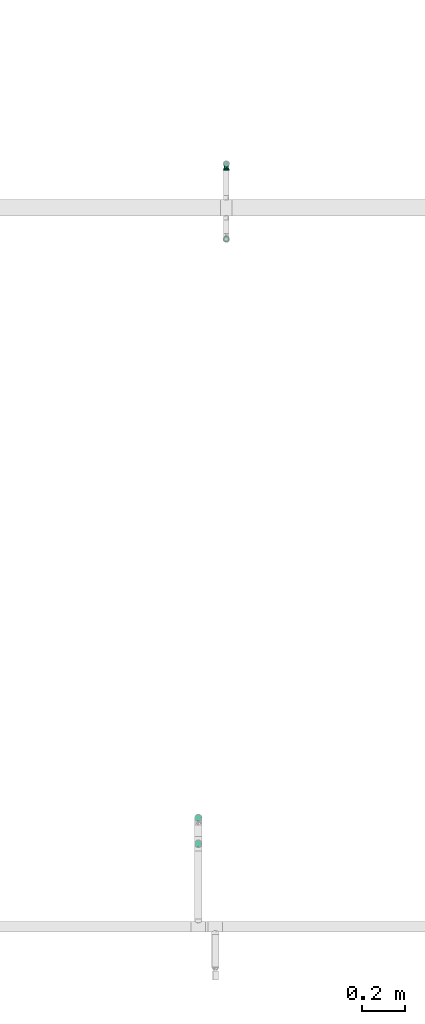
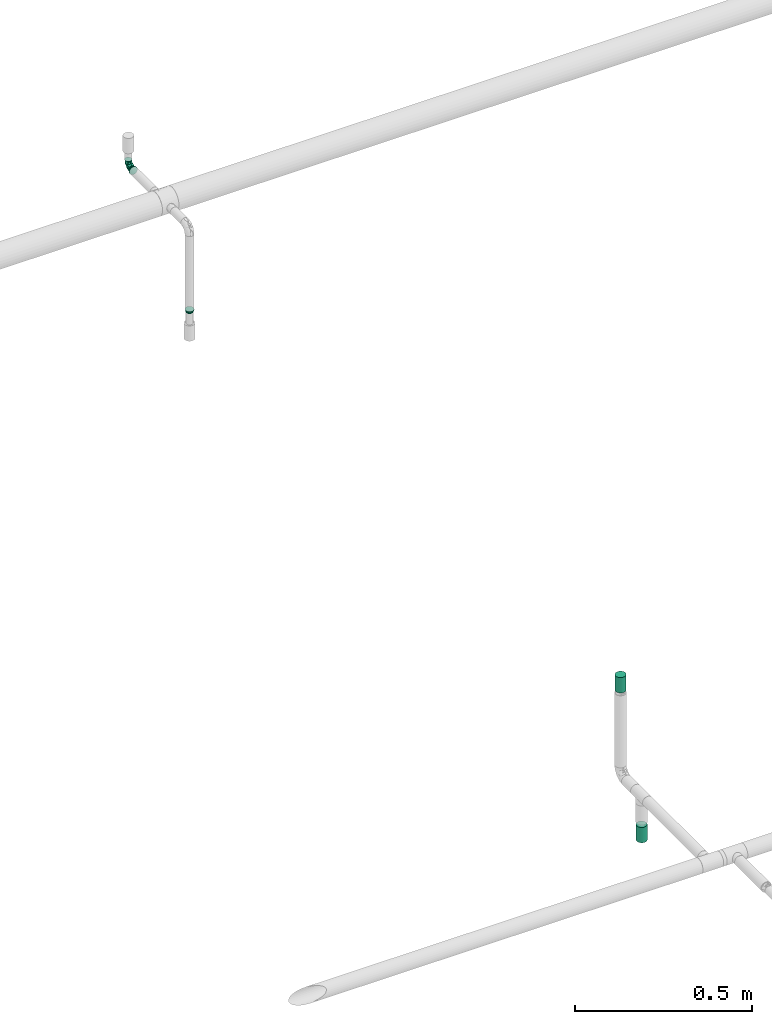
# One storey, part 35 of 51: 3 flow fittings, 2 flow terminals.
"""IFC2X3 building model written with IfcOpenShell, lengths in millimetres."""

import ifcopenshell
import ifcopenshell.guid

model = None  # the IFC model being written
_history = None  # IfcOwnerHistory: only IFC2X3 demands one
_inside = {}  # id of a spatial element -> (the spatial element, [elements in it])
_under = {}  # id of a project, library or spatial element -> (it, [spatial elements below it])
_declared = {}  # id of a project -> (the project, [libraries it declares])
_typed = {}  # id of a type object -> (the type object, [elements of that type])
_made_of = {}  # id of a material, layer set ... -> (it, [elements and type objects made of it])


def new_model(schema):
    """Start an empty IFC model of exactly this schema.

    Asked for "IFC4X3", IfcOpenShell would pick the latest addendum, in which some entities
    have other attributes; the version numbers below select the first issue.
    IFC2X3 requires an IfcOwnerHistory on every rooted entity: one is made here for all.
    """
    global model, _history
    if schema == "IFC4X3":
        model = ifcopenshell.file(schema_version=(4, 3, 0, 0))
    else:
        model = ifcopenshell.file(schema=schema)
    _inside.clear()
    _under.clear()
    _declared.clear()
    _typed.clear()
    _made_of.clear()
    _history = None
    if model.schema == "IFC2X3":
        org = make("IfcOrganization", Name="unknown")
        user = make(
            "IfcPersonAndOrganization",
            ThePerson=make("IfcPerson", FamilyName="unknown"),
            TheOrganization=org,
        )
        app = make(
            "IfcApplication",
            ApplicationDeveloper=org,
            Version="unknown",
            ApplicationFullName="unknown",
            ApplicationIdentifier="unknown",
        )
        _history = make(
            "IfcOwnerHistory",
            OwningUser=user,
            OwningApplication=app,
            ChangeAction="ADDED",
            CreationDate=0,
        )
    return model


def make(cls, **values):
    """One entity of the class cls with the attributes given. An attribute that is None is left unset."""
    return model.create_entity(
        cls, **{name: value for name, value in values.items() if value is not None}
    )


def entity(cls, *values):
    """Any entity or typed value of the class cls, its attributes in the order of the schema. None: left unset."""
    e = model.create_entity(cls)
    for i, value in enumerate(values):
        if value is not None:
            e[i] = value
    return e


def rooted(cls, **values):
    """An entity with a GlobalId (a new one), such as an element, a storey or a relation."""
    return make(cls, GlobalId=ifcopenshell.guid.new(), OwnerHistory=_history, **values)


def si_unit(unit_type, name, prefix=None):
    """IfcSIUnit, for example si_unit("LENGTHUNIT", "METRE", prefix="MILLI")."""
    return make("IfcSIUnit", UnitType=unit_type, Prefix=prefix, Name=name)


def converted_unit(unit_type, name, factor, base, dimensions=None, offset=None):
    """IfcConversionBasedUnit, such as the inch: factor (a typed value) times the base unit."""
    return make(
        "IfcConversionBasedUnit"
        if offset is None
        else "IfcConversionBasedUnitWithOffset",
        ConversionOffset=offset,
        Dimensions=None
        if dimensions is None
        else entity("IfcDimensionalExponents", *dimensions),
        UnitType=unit_type,
        Name=name,
        ConversionFactor=make(
            "IfcMeasureWithUnit", ValueComponent=factor, UnitComponent=base
        ),
    )


def derived_unit(unit_type, elements):
    """IfcDerivedUnit: a product of units, each with its exponent."""
    return make(
        "IfcDerivedUnit",
        Elements=[
            make("IfcDerivedUnitElement", Unit=unit, Exponent=power)
            for unit, power in elements
        ],
        UnitType=unit_type,
    )


def assignment(units):
    """IfcUnitAssignment: the units of a project."""
    return None if units is None else make("IfcUnitAssignment", Units=units)


def point(xyz):
    """IfcCartesianPoint."""
    return None if xyz is None else make("IfcCartesianPoint", Coordinates=xyz)


def direction(xyz):
    """IfcDirection."""
    return None if xyz is None else make("IfcDirection", DirectionRatios=xyz)


def frame(location, z_axis=None, x_axis=None):
    """IfcAxis2Placement3D, a coordinate frame: its origin and axes. An axis left out is left unset."""
    return make(
        "IfcAxis2Placement3D",
        Location=point(location),
        Axis=direction(z_axis),
        RefDirection=direction(x_axis),
    )


def origin_with_axes():
    """The frame at (0, 0, 0) with the z axis (0, 0, 1) and the x axis (1, 0, 0) written out."""
    return frame((0.0, 0.0, 0.0), z_axis=(0.0, 0.0, 1.0), x_axis=(1.0, 0.0, 0.0))


def place(relative_to, where):
    """IfcLocalPlacement: puts the frame where relative to a parent placement (None: the world)."""
    return make(
        "IfcLocalPlacement", PlacementRelTo=relative_to, RelativePlacement=where
    )


def context(
    kind, dimensions, precision=None, world=None, true_north=None, identifier=None
):
    """IfcGeometricRepresentationContext, for example the 3D "Model" context."""
    return make(
        "IfcGeometricRepresentationContext",
        ContextIdentifier=identifier,
        ContextType=kind,
        CoordinateSpaceDimension=dimensions,
        Precision=precision,
        WorldCoordinateSystem=world,
        TrueNorth=true_north,
    )


def subcontext(parent, identifier, kind, view, scale=None):
    """IfcGeometricRepresentationSubContext, for example "Body" below "Model"."""
    return make(
        "IfcGeometricRepresentationSubContext",
        ContextIdentifier=identifier,
        ContextType=kind,
        ParentContext=parent,
        TargetScale=scale,
        TargetView=view,
    )


def project(units=None, contexts=None):
    """IfcProject with its units and contexts."""
    return rooted(
        "IfcProject",
        Name="project",
        RepresentationContexts=contexts,
        UnitsInContext=assignment(units),
    )


def spatial(cls, under=None, at=None, **own):
    """A site, building, storey or space (cls), placed at a placement, below another one or the project."""
    s = rooted(cls, ObjectPlacement=at, **own)
    if under is not None:
        _under.setdefault(under.id(), (under, []))[1].append(s)
    return s


def faces_of(points, faces, orient=None, outer=None):
    """IfcFace entities. A face is a list of loops; a loop is a list of indices into points, from 0.

    orient and outer hold one flag for each loop. By default every Orientation is true, the
    first loop of a face is its IfcFaceOuterBound and the others are IfcFaceBound.
    """
    made = []
    for i, loops in enumerate(faces):
        bounds = []
        for j, loop in enumerate(loops):
            is_outer = j == 0 if outer is None else outer[i][j]
            bounds.append(
                make(
                    "IfcFaceOuterBound" if is_outer else "IfcFaceBound",
                    Bound=make("IfcPolyLoop", Polygon=[points[k] for k in loop]),
                    Orientation=True if orient is None else orient[i][j],
                )
            )
        made.append(make("IfcFace", Bounds=bounds))
    return made


def open_shell(faces, orient=None, outer=None):
    """The faces of one IfcOpenShell. surface_model builds it on its shared points."""
    return ("IfcOpenShell", faces, orient, outer)


def surface_model(cls, points, shells):
    """IfcFaceBasedSurfaceModel or IfcShellBasedSurfaceModel (cls): surfaces that need not close."""
    shared = [point(p) for p in points]
    made = [make(c, CfsFaces=faces_of(shared, fs, o, b)) for c, fs, o, b in shells]
    if cls == "IfcFaceBasedSurfaceModel":
        return make(cls, FbsmFaces=made)
    return make(cls, SbsmBoundary=made)


def shape(context_of_items, identifier, shape_type, items):
    """IfcShapeRepresentation: the items that make up one representation, for example the "Body"."""
    return make(
        "IfcShapeRepresentation",
        ContextOfItems=context_of_items,
        RepresentationIdentifier=identifier,
        RepresentationType=shape_type,
        Items=items,
    )


def source(mapping_origin, context_of_items, identifier, shape_type, items):
    """IfcRepresentationMap: a shape defined once, which mapped items show again and again."""
    return make(
        "IfcRepresentationMap",
        MappingOrigin=mapping_origin,
        MappedRepresentation=shape(context_of_items, identifier, shape_type, items),
    )


def transform(
    local_origin,
    x_axis=None,
    y_axis=None,
    z_axis=None,
    scale=None,
    scale2=None,
    scale3=None,
    uniform=True,
):
    """IfcCartesianTransformationOperator3D, or its non-uniform kind. x_axis, y_axis, z_axis: its Axis1, 2, 3."""
    if uniform:
        return make(
            "IfcCartesianTransformationOperator3D",
            Axis1=direction(x_axis),
            Axis2=direction(y_axis),
            LocalOrigin=point(local_origin),
            Scale=scale,
            Axis3=direction(z_axis),
        )
    return make(
        "IfcCartesianTransformationOperator3DnonUniform",
        Axis1=direction(x_axis),
        Axis2=direction(y_axis),
        LocalOrigin=point(local_origin),
        Scale=scale,
        Axis3=direction(z_axis),
        Scale2=scale2,
        Scale3=scale3,
    )


def mapped(mapping_source, mapping_target):
    """IfcMappedItem: shows the shape of a source again, moved by a transform."""
    return make(
        "IfcMappedItem", MappingSource=mapping_source, MappingTarget=mapping_target
    )


def made_of(thing, what):
    """Note that an element or type object is made of a material, layer set ...; save() writes the relation."""
    if what is not None:
        _made_of.setdefault(what.id(), (what, []))[1].append(thing)
    return thing


def type_object(cls, material=None, **own):
    """A type object (cls), such as IfcWallType, which elements share."""
    return made_of(rooted(cls, **own), material)


def element(
    cls,
    number,
    at=None,
    inside=None,
    cuts=None,
    type_object=None,
    material=None,
    context=None,
    identifier="Body",
    shape_type=None,
    held_by="IfcProductDefinitionShape",
    body=None,
    shapes=None,
    **own,
):
    """One element of the class cls, such as IfcWall. Its Tag is "e" and its number.

    at: its placement. inside: the storey or other place that contains it. cuts: it is an
    opening in that element (IfcRelVoidsElement). A single representation is given by context,
    identifier, shape_type and body (its items); several are given by shapes. held_by: the class
    of the entity that holds the representations. save() writes the other relations.
    """
    e = rooted(cls, Tag="e%d" % number, ObjectPlacement=at, **own)
    if body is not None:
        shapes = [shape(context, identifier, shape_type, body)]
    if shapes is not None:
        e.Representation = make(held_by, Representations=shapes)
    if inside is not None:
        _inside.setdefault(inside.id(), (inside, []))[1].append(e)
    if cuts is not None:
        rooted(
            "IfcRelVoidsElement", RelatingBuildingElement=cuts, RelatedOpeningElement=e
        )
    if type_object is not None:
        _typed.setdefault(type_object.id(), (type_object, []))[1].append(e)
    return made_of(e, material)


def aggregate(whole, parts):
    """IfcRelAggregates: a whole, such as a stair, and the parts it consists of."""
    return rooted("IfcRelAggregates", RelatingObject=whole, RelatedObjects=parts)


def save(model, path):
    """Write the relations noted so far, then the file.

    IfcRelAggregates (storeys below a building ...), IfcRelContainedInSpatialStructure (elements
    in a storey), IfcRelDefinesByType, IfcRelAssociatesMaterial and IfcRelDeclares: one each for
    every whole, place, type object, material and project.
    """
    for whole, parts in _under.values():
        aggregate(whole, parts)
    for where, things in _inside.values():
        rooted(
            "IfcRelContainedInSpatialStructure",
            RelatedElements=things,
            RelatingStructure=where,
        )
    for kind, things in _typed.values():
        rooted("IfcRelDefinesByType", RelatedObjects=things, RelatingType=kind)
    for what, things in _made_of.values():
        rooted("IfcRelAssociatesMaterial", RelatedObjects=things, RelatingMaterial=what)
    for by, libraries in _declared.values():
        rooted("IfcRelDeclares", RelatingContext=by, RelatedDefinitions=libraries)
    model.write(path)


model = new_model("IFC2X3")

# Units and contexts
model_context = context("Model", 3, precision=0.01, world=frame((0.0, 4.29681676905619e-09, 0.0)), true_north=direction((4.01073788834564e-13, 1.0)))
plan_context = context("Plan", 3, precision=0.01, world=frame((0.0, 4.29681676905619e-09, 0.0)), true_north=direction((4.01073788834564e-13, 1.0)))
body_context = subcontext(model_context, "Body", "Model", "MODEL_VIEW")
ifc_project = project(units=[converted_unit("PLANEANGLEUNIT", "DEGREE", entity("IfcPositiveLengthMeasure", 0.0174532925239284), si_unit("PLANEANGLEUNIT", "RADIAN"), dimensions=[0, 0, 0, 0, 0, 0, 0]), si_unit("AREAUNIT", "SQUARE_METRE"), si_unit("LENGTHUNIT", "METRE", prefix="MILLI"), si_unit("MASSUNIT", "GRAM", prefix="KILO"), si_unit("POWERUNIT", "WATT"), si_unit("PRESSUREUNIT", "PASCAL"), si_unit("FORCEUNIT", "NEWTON", prefix="KILO"), si_unit("ELECTRICVOLTAGEUNIT", "VOLT"), si_unit("ELECTRICCURRENTUNIT", "AMPERE"), si_unit("THERMODYNAMICTEMPERATUREUNIT", "DEGREE_CELSIUS"), si_unit("TIMEUNIT", "SECOND"), si_unit("VOLUMEUNIT", "CUBIC_METRE"), derived_unit("LINEARVELOCITYUNIT", [(si_unit("LENGTHUNIT", "METRE"), 1), (si_unit("TIMEUNIT", "SECOND"), -1)]), derived_unit("VOLUMETRICFLOWRATEUNIT", [(si_unit("VOLUMEUNIT", "CUBIC_METRE"), 1), (si_unit("TIMEUNIT", "SECOND"), -1)]), derived_unit("THERMALTRANSMITTANCEUNIT", [(si_unit("POWERUNIT", "WATT"), 1), (si_unit("THERMODYNAMICTEMPERATUREUNIT", "KELVIN"), -1), (si_unit("AREAUNIT", "SQUARE_METRE"), -1)]), derived_unit("SOUNDPRESSUREUNIT", [(si_unit("PRESSUREUNIT", "PASCAL"), 1)])], contexts=[model_context, plan_context])

# Site, building, storey
site_placement = place(None, frame((0.0, -4.29681676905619e-09, 0.0), z_axis=(0.0, 0.0, 1.0), x_axis=(1.0, 0.0, 0.0)))
site = spatial("IfcSite", under=ifc_project, at=site_placement, Name="ENGM", CompositionType="ELEMENT")
building_placement = place(site_placement, frame((0.0, 4.29681676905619e-09, 0.0), z_axis=(0.0, 0.0, 1.0), x_axis=(1.0, 0.0, 0.0)))
building = spatial("IfcBuilding", under=site, at=building_placement, Name="TH", CompositionType="ELEMENT")
storey_placement = place(building_placement, frame((0.0, 0.0, 210200.0), z_axis=(0.0, 0.0, 1.0), x_axis=(1.0, 0.0, 0.0)))
storey = spatial("IfcBuildingStorey", under=building, at=storey_placement, Name="Nivå F - 0,7 m", CompositionType="ELEMENT", Elevation=210200.0)

# Flow fittings
pipe_fitting_type_1 = type_object("IfcPipeFittingType", Name="magi_pipe_fe_elbow_short_001", PredefinedType="BEND")
shared_shape_1 = source(origin_with_axes(), body_context, "Body", "SurfaceModel", [
    surface_model("IfcShellBasedSurfaceModel", [(-21.4, 2.76936, -10.33541), (-21.4, 0.0, -10.7), (-21.4, 7.56604, -7.56604), (-21.4, 5.35, -9.26647), (-21.4, 10.33541, -2.76936), (-21.4, 9.26647, -5.35), (-21.4, -7.56604, 7.56604), (-21.4, -5.35, -9.26647), (-21.4, -5.35, 9.26647), (-21.4, -7.56604, -7.56604), (-21.4, -9.26647, -5.35), (-21.4, -2.76936, -10.33541), (-21.4, -10.33541, -2.76936), (-21.4, -10.7, 0.0), (-21.4, 10.7, 0.0), (-21.4, 10.33541, 2.76936), (-21.4, 9.26647, 5.35), (-21.4, 7.56604, 7.56604), (-21.4, 5.35, 9.26647), (-21.4, 2.76936, 10.33541), (-21.4, -10.33541, 2.76936), (-21.4, -9.26647, 5.35), (-21.4, -2.76936, 10.33541), (-21.4, 0.0, 10.7), (-7.56604, 21.4, -7.56604), (0.0, 21.4, -10.7), (-2.76936, 21.4, -10.33541), (-5.35, 21.4, -9.26647), (-9.26647, 21.4, -5.35), (-10.33541, 21.4, -2.76936), (10.7, 21.4, 0.0), (5.35, 21.4, -9.26647), (9.26647, 21.4, -5.35), (7.56604, 21.4, -7.56604), (2.76936, 21.4, -10.33541), (10.33541, 21.4, -2.76936), (-10.33541, 21.4, 2.76936), (5.35, 21.4, 9.26647), (-7.56604, 21.4, 7.56604), (-9.26647, 21.4, 5.35), (-5.35, 21.4, 9.26647), (-2.76936, 21.4, 10.33541), (9.26647, 21.4, 5.35), (10.33541, 21.4, 2.76936), (7.56604, 21.4, 7.56604), (0.0, 21.4, 10.7), (2.76936, 21.4, 10.33541), (-10.7, 21.4, 0.0), (-17.99408, -9.78739, 0.0), (-9.96908, -7.6371, 0.0), (-9.09404, -6.9243, 4.95785), (-14.48689, -7.04149, 7.24979), (5.63065, 8.24892, 6.28438), (2.06258, 3.09852, 6.68299), (3.46206, 2.41265, 0.0), (0.98571, 10.3211, 10.08431), (-14.58817, -8.87478, 0.0), (5.00363, 14.04705, 8.8538), (-11.43216, -3.30045, 9.33143), (7.6371, 9.96908, 0.0), (8.87478, 14.58817, 0.0), (-7.84024, 13.84213, 8.94205), (-3.62699, 16.02976, 10.31804), (-15.33449, 3.33478, 10.44017), (-7.99137, -0.64527, 9.75219), (-12.26698, 17.61698, 0.0), (-13.83396, 13.83396, 0.0), (-5.22925, -4.43288, 5.66596), (6.39942, 5.35, 0.0), (-15.15468, 10.16047, 6.44408), (-10.16467, 10.01422, 9.23503), (9.78739, 17.99408, 0.0), (-7.22951, 3.98894, 10.64848), (-2.16379, -1.00373, 6.95774), (0.52471, -0.52471, 0.0), (-2.94157, 6.97816, 10.50675), (-17.61698, 12.26698, 0.0), (-2.41265, -3.46206, 0.0), (-5.35, -6.39942, 0.0), (-8.83498, -0.07405, -10.11828), (-2.16379, -1.00373, -6.95774), (-5.8406, -4.06158, -6.57779), (-7.84024, 13.84213, -8.94205), (-15.33449, 3.33478, -10.44017), (-11.43216, -3.30045, -9.33143), (-15.15468, 10.16047, -6.44408), (-7.22951, 3.98894, -10.64848), (-10.16467, 10.01422, -9.23503), (2.06258, 3.09852, -6.68299), (-2.94157, 6.97816, -10.50675), (-14.48689, -7.04149, -7.24979), (5.00363, 14.04705, -8.8538), (-3.62699, 16.02976, -10.31804), (0.98571, 10.3211, -10.08431), (5.63065, 8.24892, -6.28438), (-9.09404, -6.9243, -4.95785)], [open_shell([[[0, 1, 2]], [[3, 0, 2]], [[4, 5, 2]], [[6, 1, 7]], [[1, 8, 2]], [[9, 10, 7]], [[1, 11, 7]], [[12, 13, 10]], [[7, 10, 13]], [[13, 6, 7]], [[4, 2, 14]], [[8, 15, 2]], [[16, 15, 17]], [[8, 18, 15]], [[17, 15, 18]], [[18, 8, 19]], [[20, 21, 13]], [[13, 21, 6]], [[22, 23, 8]], [[6, 8, 1]], [[8, 23, 19]], [[15, 14, 2]], [[24, 25, 26]], [[24, 26, 27]], [[24, 28, 29]], [[24, 29, 25]], [[25, 29, 30]], [[31, 32, 33]], [[31, 34, 25]], [[32, 30, 35]], [[30, 32, 31]], [[25, 30, 31]], [[29, 36, 30]], [[30, 36, 37]], [[38, 36, 39]], [[36, 40, 37]], [[40, 36, 38]], [[41, 37, 40]], [[30, 42, 43]], [[44, 42, 30]], [[37, 45, 46]], [[30, 37, 44]], [[41, 45, 37]], [[29, 47, 36]], [[21, 20, 48]], [[49, 50, 51]], [[52, 53, 54]], [[52, 55, 53]], [[51, 6, 56]], [[6, 21, 56]], [[41, 57, 45]], [[23, 51, 58]], [[51, 22, 8]], [[57, 59, 60]], [[61, 55, 62]], [[63, 58, 64]], [[65, 66, 61]], [[51, 23, 22]], [[23, 58, 19]], [[67, 58, 50]], [[54, 68, 52]], [[63, 17, 18]], [[20, 13, 48]], [[14, 15, 69]], [[16, 17, 63]], [[62, 40, 38]], [[19, 58, 63]], [[16, 69, 15]], [[63, 18, 19]], [[59, 52, 68]], [[60, 44, 37]], [[57, 46, 45]], [[69, 70, 66]], [[52, 59, 57]], [[39, 62, 38]], [[60, 42, 44]], [[37, 57, 60]], [[37, 46, 57]], [[6, 51, 8]], [[43, 71, 30]], [[51, 56, 49]], [[70, 69, 72]], [[73, 74, 53]], [[75, 72, 73]], [[16, 63, 69]], [[47, 65, 36]], [[42, 71, 43]], [[55, 57, 62]], [[52, 57, 55]], [[41, 40, 62]], [[60, 71, 42]], [[36, 61, 39]], [[48, 56, 21]], [[61, 62, 39]], [[62, 57, 41]], [[69, 63, 72]], [[53, 75, 73]], [[69, 66, 76]], [[67, 64, 58]], [[75, 53, 55]], [[67, 77, 73]], [[55, 61, 75]], [[70, 75, 61]], [[50, 49, 78]], [[67, 50, 78]], [[51, 50, 58]], [[77, 74, 73]], [[73, 72, 64]], [[67, 78, 77]], [[73, 64, 67]], [[63, 64, 72]], [[36, 65, 61]], [[75, 70, 72]], [[14, 69, 76]], [[66, 70, 61]], [[53, 74, 54]], [[79, 80, 81]], [[65, 29, 82]], [[3, 2, 83]], [[0, 84, 1]], [[4, 14, 85]], [[10, 48, 12]], [[83, 5, 85]], [[85, 5, 4]], [[86, 85, 87]], [[83, 86, 79]], [[83, 84, 0]], [[48, 13, 12]], [[80, 77, 81]], [[88, 80, 89]], [[10, 9, 56]], [[7, 11, 90]], [[91, 31, 60]], [[9, 7, 90]], [[90, 11, 1]], [[84, 90, 1]], [[9, 90, 56]], [[28, 92, 82]], [[5, 83, 2]], [[85, 14, 76]], [[80, 88, 74]], [[82, 66, 65]], [[93, 82, 92]], [[28, 82, 29]], [[28, 24, 92]], [[24, 27, 92]], [[71, 60, 32]], [[91, 92, 26]], [[56, 48, 10]], [[35, 30, 71]], [[27, 26, 92]], [[94, 88, 93]], [[25, 91, 26]], [[31, 91, 34]], [[83, 0, 3]], [[94, 93, 91]], [[33, 60, 31]], [[89, 93, 88]], [[34, 91, 25]], [[71, 32, 35]], [[92, 91, 93]], [[59, 91, 60]], [[86, 83, 85]], [[95, 78, 49]], [[33, 32, 60]], [[66, 87, 85]], [[94, 59, 68]], [[89, 80, 86]], [[49, 56, 90]], [[94, 54, 88]], [[59, 94, 91]], [[95, 90, 84]], [[87, 89, 86]], [[82, 93, 89]], [[81, 78, 95]], [[90, 95, 49]], [[81, 95, 84]], [[79, 81, 84]], [[82, 87, 66]], [[83, 79, 84]], [[80, 79, 86]], [[77, 80, 74]], [[77, 78, 81]], [[47, 29, 65]], [[76, 66, 85]], [[89, 87, 82]], [[54, 94, 68]], [[54, 74, 88]]])]),
])
flow_fitting_1_placement = place(storey_placement, frame((906000.0, 484531.46933, 2933.0), z_axis=(-1.0, 0.0, 0.0), x_axis=(0.0, 0.0, -1.0)))
element("IfcFlowFitting", 1, at=flow_fitting_1_placement, inside=storey, type_object=pipe_fitting_type_1, Name="magi_pipe_fe_elbow_short_001", context=body_context, shape_type="MappedRepresentation", body=[
    mapped(shared_shape_1, transform((0.0, 0.0, 0.0), scale=1.0)),
])
pipe_fitting_type_2 = type_object("IfcPipeFittingType", Name="magi_pipe_fe_reducer_centric_short_NOR", PredefinedType="TRANSITION")
shared_shape_2 = source(origin_with_axes(), body_context, "Body", "SurfaceModel", [
    surface_model("IfcShellBasedSurfaceModel", [(-2.0, -7.56604, -7.56604), (-2.0, -10.33541, -2.76936), (-2.0, -5.35, -9.26647), (0.0, -10.7, 0.0), (0.0, -5.35, 9.26647), (0.0, -5.35, -9.26647), (-2.0, -2.76936, 10.33541), (-2.0, 0.0, 10.7), (-2.0, -10.33541, 2.76936), (-2.0, -5.35, 9.26647), (-2.0, -7.56604, 7.56604), (-2.0, -9.26647, 5.35), (-2.0, 9.26647, 5.35), (-2.0, 5.35, 9.26647), (-2.0, 7.56604, 7.56604), (-2.0, 2.76936, 10.33541), (-2.0, 10.7, 0.0), (-2.0, 10.33541, -2.76936), (-2.0, 10.33541, 2.76936), (-2.0, -9.26647, -5.35), (-2.0, 5.35, -9.26647), (-2.0, -2.76936, -10.33541), (-2.0, 9.26647, -5.35), (-2.0, 7.56604, -7.56604), (-2.0, 2.76936, -10.33541), (-2.0, 0.0, -10.7), (-2.0, -10.7, 0.0), (0.0, -2.76936, -10.33541), (0.0, 0.0, -10.7), (0.0, -7.56604, -7.56604), (0.0, -10.33541, -2.76936), (0.0, 10.33541, -2.76936), (0.0, -9.26647, -5.35), (0.0, 9.26647, 5.35), (0.0, 2.76936, -10.33541), (0.0, 5.35, -9.26647), (0.0, 9.26647, -5.35), (0.0, 7.56604, -7.56604), (0.0, -10.33541, 2.76936), (0.0, -7.56604, 7.56604), (0.0, -9.26647, 5.35), (0.0, 0.0, 10.7), (0.0, -2.76936, 10.33541), (0.0, 10.7, 0.0), (0.0, 10.33541, 2.76936), (0.0, 5.35, 9.26647), (0.0, 2.76936, 10.33541), (0.0, 7.56604, 7.56604), (7.4, -6.7, -11.60474), (7.4, -3.46818, -12.94341), (7.4, -13.4, 0.0), (7.4, -9.47523, -9.47523), (7.4, -12.94341, -3.46818), (7.4, -11.60474, -6.7), (7.4, 12.94341, -3.46818), (7.4, 3.46818, -12.94341), (7.4, 6.7, -11.60474), (7.4, 0.0, -13.4), (7.4, 11.60474, -6.7), (7.4, 9.47523, -9.47523), (7.4, -12.94341, 3.46818), (7.4, -9.47523, 9.47523), (7.4, -11.60474, 6.7), (7.4, 0.0, 13.4), (7.4, -3.46818, 12.94341), (7.4, -6.7, 11.60474), (7.4, 6.7, 11.60474), (7.4, 11.60474, 6.7), (7.4, 9.47523, 9.47523), (7.4, 12.94341, 3.46818), (7.4, 13.4, 0.0), (7.4, 3.46818, 12.94341), (5.4, -6.7, 11.60474), (5.4, -3.46818, 12.94341), (5.4, 0.0, 13.4), (5.4, 3.46818, 12.94341), (5.4, -12.94341, 3.46818), (5.4, -11.60474, 6.7), (5.4, -9.47523, 9.47523), (5.4, 12.94341, 3.46818), (5.4, 6.7, 11.60474), (5.4, 9.47523, 9.47523), (5.4, 11.60474, 6.7), (5.4, 13.4, 0.0), (5.4, 6.7, -11.60474), (5.4, -9.47523, -9.47523), (5.4, -12.94341, -3.46818), (5.4, -11.60474, -6.7), (5.4, -6.7, -11.60474), (5.4, -3.46818, -12.94341), (5.4, 11.60474, -6.7), (5.4, 9.47523, -9.47523), (5.4, 12.94341, -3.46818), (5.4, 3.46818, -12.94341), (5.4, 0.0, -13.4), (5.4, -13.4, 0.0)], [open_shell([[[0, 1, 2]], [[3, 4, 5]], [[6, 7, 8]], [[9, 6, 10]], [[8, 11, 10]], [[6, 8, 10]], [[12, 8, 7]], [[13, 14, 15]], [[12, 15, 14]], [[16, 17, 18]], [[7, 15, 12]], [[17, 12, 18]], [[1, 8, 12]], [[1, 12, 17]], [[19, 1, 0]], [[17, 2, 1]], [[2, 20, 21]], [[22, 23, 17]], [[20, 17, 23]], [[24, 25, 20]], [[2, 17, 20]], [[20, 25, 21]], [[26, 8, 1]], [[27, 28, 5]], [[29, 5, 30]], [[30, 5, 31]], [[32, 29, 30]], [[30, 31, 33]], [[34, 35, 28]], [[35, 5, 28]], [[36, 31, 37]], [[35, 37, 31]], [[35, 31, 5]], [[38, 3, 30]], [[39, 40, 38]], [[33, 39, 30]], [[39, 41, 42]], [[4, 39, 42]], [[41, 39, 33]], [[43, 44, 31]], [[31, 44, 33]], [[45, 46, 47]], [[33, 47, 46]], [[33, 46, 41]], [[39, 38, 30]], [[16, 31, 17]], [[17, 36, 22]], [[20, 23, 35]], [[37, 23, 22]], [[24, 20, 34]], [[31, 36, 17]], [[16, 43, 31]], [[20, 35, 34]], [[35, 23, 37]], [[22, 36, 37]], [[24, 34, 28]], [[28, 25, 24]], [[25, 27, 21]], [[21, 5, 2]], [[19, 0, 32]], [[29, 0, 2]], [[1, 19, 30]], [[5, 29, 2]], [[21, 27, 5]], [[1, 30, 3]], [[30, 19, 32]], [[0, 29, 32]], [[1, 3, 26]], [[28, 27, 25]], [[26, 38, 8]], [[8, 40, 11]], [[9, 10, 4]], [[39, 10, 11]], [[6, 9, 42]], [[38, 40, 8]], [[26, 3, 38]], [[9, 4, 42]], [[4, 10, 39]], [[11, 40, 39]], [[6, 42, 41]], [[41, 7, 6]], [[7, 46, 15]], [[15, 45, 13]], [[12, 14, 33]], [[47, 14, 13]], [[18, 12, 44]], [[45, 47, 13]], [[15, 46, 45]], [[18, 44, 43]], [[44, 12, 33]], [[14, 47, 33]], [[18, 43, 16]], [[41, 46, 7]], [[4, 45, 43]], [[35, 5, 43]], [[4, 43, 5]], [[48, 49, 50]], [[51, 48, 50]], [[51, 50, 52]], [[53, 51, 52]], [[54, 50, 49]], [[55, 56, 57]], [[56, 49, 57]], [[58, 54, 59]], [[56, 59, 54]], [[56, 54, 49]], [[54, 60, 50]], [[61, 62, 60]], [[63, 61, 60]], [[63, 64, 65]], [[61, 63, 65]], [[66, 63, 60]], [[67, 68, 69]], [[69, 54, 70]], [[68, 66, 69]], [[66, 60, 69]], [[63, 66, 71]], [[60, 54, 69]], [[72, 73, 74]], [[72, 74, 75]], [[76, 77, 78]], [[75, 78, 72]], [[78, 79, 76]], [[80, 81, 75]], [[79, 75, 81]], [[82, 79, 81]], [[79, 78, 75]], [[83, 84, 79]], [[84, 76, 79]], [[85, 86, 76]], [[87, 86, 85]], [[88, 76, 84]], [[76, 88, 85]], [[89, 88, 84]], [[90, 91, 92]], [[91, 83, 92]], [[93, 94, 84]], [[91, 84, 83]], [[84, 94, 89]], [[95, 76, 86]], [[83, 54, 92]], [[92, 58, 90]], [[84, 91, 56]], [[59, 91, 90]], [[93, 84, 55]], [[54, 58, 92]], [[83, 70, 54]], [[84, 56, 55]], [[56, 91, 59]], [[90, 58, 59]], [[93, 55, 57]], [[57, 94, 93]], [[94, 49, 89]], [[89, 48, 88]], [[87, 85, 53]], [[51, 85, 88]], [[86, 87, 52]], [[48, 51, 88]], [[89, 49, 48]], [[86, 52, 50]], [[52, 87, 53]], [[85, 51, 53]], [[86, 50, 95]], [[57, 49, 94]], [[95, 60, 76]], [[76, 62, 77]], [[72, 78, 65]], [[61, 78, 77]], [[73, 72, 64]], [[60, 62, 76]], [[95, 50, 60]], [[72, 65, 64]], [[65, 78, 61]], [[77, 62, 61]], [[73, 64, 63]], [[63, 74, 73]], [[74, 71, 75]], [[75, 66, 80]], [[82, 81, 67]], [[68, 81, 80]], [[79, 82, 69]], [[66, 68, 80]], [[75, 71, 66]], [[79, 69, 70]], [[69, 82, 67]], [[81, 68, 67]], [[79, 70, 83]], [[63, 71, 74]], [[91, 81, 74]], [[74, 78, 95]], [[83, 81, 91]], [[85, 94, 91]], [[91, 95, 85]], [[74, 95, 91]], [[91, 35, 43]], [[43, 83, 91]], [[91, 94, 35]], [[85, 3, 5]], [[5, 94, 85]], [[3, 85, 95]], [[35, 94, 5]], [[78, 4, 3]], [[3, 95, 78]], [[78, 74, 4]], [[81, 43, 45]], [[45, 74, 81]], [[43, 81, 83]], [[4, 74, 45]]])]),
])
flow_fitting_2_placement = place(storey_placement, frame((906000.0, 484510.06933, 2933.0), z_axis=(0.0, 0.0, 1.0), x_axis=(0.0, -1.0, 0.0)))
element("IfcFlowFitting", 2, at=flow_fitting_2_placement, inside=storey, type_object=pipe_fitting_type_2, Name="magi_pipe_fe_reducer_centric_short_NOR", context=body_context, shape_type="MappedRepresentation", body=[
    mapped(shared_shape_2, transform((0.0, 0.0, 0.0), scale=1.0)),
])
shared_shape_3 = source(origin_with_axes(), body_context, "Body", "SurfaceModel", [
    surface_model("IfcShellBasedSurfaceModel", [(-2.0, 7.56604, 7.56604), (-2.0, 9.26647, 5.35), (-2.0, 10.33541, 2.76936), (-2.0, -2.76936, 10.33541), (-2.0, -7.56604, 7.56604), (-2.0, -5.35, 9.26647), (-2.0, -10.33541, 2.76936), (-2.0, -10.33541, -2.76936), (-2.0, -10.7, 0.0), (-2.0, 7.56604, -7.56604), (-2.0, 10.33541, -2.76936), (-2.0, 9.26647, -5.35), (-2.0, -7.56604, -7.56604), (-2.0, -9.26647, -5.35), (-2.0, -5.35, -9.26647), (-2.0, 0.0, -10.7), (-2.0, -2.76936, -10.33541), (-2.0, 2.76936, -10.33541), (-2.0, 10.7, 0.0), (0.0, 5.35, -9.26647), (0.0, 0.0, -10.7), (0.0, 2.76936, -10.33541), (0.0, 10.33541, -2.76936), (0.0, 7.56604, -7.56604), (0.0, 9.26647, -5.35), (0.0, -5.35, -9.26647), (0.0, -2.76936, -10.33541), (0.0, -7.56604, -7.56604), (0.0, -10.33541, -2.76936), (0.0, -9.26647, -5.35), (0.0, 10.33541, 2.76936), (0.0, 9.26647, 5.35), (0.0, 7.56604, 7.56604), (0.0, 2.76936, 10.33541), (0.0, 5.35, 9.26647), (0.0, -7.56604, 7.56604), (0.0, -2.76936, 10.33541), (0.0, -5.35, 9.26647), (0.0, -10.7, 0.0), (-2.0, 5.35, -9.26647), (0.0, 10.7, 0.0), (-2.0, 5.35, 9.26647), (-2.0, 2.76936, 10.33541), (0.0, 0.0, 10.7), (-2.0, 0.0, 10.7), (0.0, -9.26647, 5.35), (-2.0, -9.26647, 5.35), (0.0, -10.33541, 2.76936), (5.4, -12.94341, 3.46818), (5.4, -6.7, -11.60474), (5.4, -9.47523, -9.47523), (5.4, 9.47523, -9.47523), (5.4, 0.0, -13.4), (5.4, -9.47523, 9.47523), (5.4, 0.0, 13.4), (5.4, 9.47523, 9.47523), (7.4, 12.94341, -3.46818), (7.4, 3.46818, -12.94341), (7.4, 6.7, -11.60474), (7.4, 9.47523, -9.47523), (7.4, -6.7, -11.60474), (7.4, -12.94341, 3.46818), (7.4, 11.60474, -6.7), (7.4, 0.0, -13.4), (7.4, -3.46818, -12.94341), (7.4, -9.47523, -9.47523), (7.4, -12.94341, -3.46818), (7.4, -11.60474, -6.7), (7.4, 13.4, 0.0), (7.4, 12.94341, 3.46818), (7.4, 11.60474, 6.7), (7.4, 9.47523, 9.47523), (7.4, 0.0, 13.4), (7.4, 6.7, 11.60474), (7.4, 3.46818, 12.94341), (7.4, -6.7, 11.60474), (7.4, -9.47523, 9.47523), (7.4, -11.60474, 6.7), (7.4, -13.4, 0.0), (7.4, -3.46818, 12.94341), (5.4, 3.46818, 12.94341), (5.4, 6.7, 11.60474), (5.4, -3.46818, 12.94341), (5.4, 11.60474, 6.7), (5.4, 12.94341, 3.46818), (5.4, -6.7, 11.60474), (5.4, -11.60474, 6.7), (5.4, -12.94341, -3.46818), (5.4, -13.4, 0.0), (5.4, 12.94341, -3.46818), (5.4, 11.60474, -6.7), (5.4, 6.7, -11.60474), (5.4, 3.46818, -12.94341), (5.4, -11.60474, -6.7), (5.4, -3.46818, -12.94341), (5.4, 13.4, 0.0)], [open_shell([[[0, 1, 2]], [[3, 4, 5]], [[6, 7, 8]], [[9, 10, 11]], [[7, 12, 13]], [[12, 7, 14]], [[14, 15, 16]], [[17, 15, 14]], [[10, 2, 18]], [[19, 20, 21]], [[22, 19, 23]], [[22, 23, 24]], [[20, 25, 26]], [[20, 19, 25]], [[27, 28, 29]], [[28, 27, 25]], [[30, 31, 32]], [[33, 32, 34]], [[35, 36, 37]], [[7, 28, 8]], [[13, 29, 7]], [[25, 12, 14]], [[13, 12, 27]], [[26, 14, 16]], [[7, 29, 28]], [[28, 38, 8]], [[26, 25, 14]], [[27, 12, 25]], [[27, 29, 13]], [[20, 26, 16]], [[16, 15, 20]], [[17, 21, 15]], [[39, 19, 17]], [[24, 9, 11]], [[39, 9, 23]], [[22, 11, 10]], [[39, 23, 19]], [[19, 21, 17]], [[40, 22, 10]], [[24, 11, 22]], [[24, 23, 9]], [[18, 40, 10]], [[15, 21, 20]], [[2, 30, 18]], [[1, 31, 2]], [[34, 0, 41]], [[1, 0, 32]], [[33, 41, 42]], [[2, 31, 30]], [[30, 40, 18]], [[33, 34, 41]], [[32, 0, 34]], [[32, 31, 1]], [[43, 33, 42]], [[42, 44, 43]], [[3, 36, 44]], [[5, 37, 3]], [[45, 4, 46]], [[5, 4, 35]], [[47, 46, 6]], [[5, 35, 37]], [[37, 36, 3]], [[38, 47, 6]], [[45, 46, 47]], [[45, 35, 4]], [[8, 38, 6]], [[44, 36, 43]], [[38, 37, 25]], [[40, 37, 34]], [[40, 19, 25]], [[40, 25, 37]], [[39, 10, 9]], [[42, 7, 44]], [[41, 7, 42]], [[0, 2, 41]], [[6, 44, 7]], [[3, 44, 4]], [[4, 6, 46]], [[44, 6, 4]], [[41, 2, 7]], [[7, 2, 10]], [[10, 39, 7]], [[17, 7, 39]], [[14, 7, 17]], [[28, 19, 22]], [[43, 28, 22]], [[19, 28, 25]], [[22, 40, 30]], [[30, 32, 33]], [[43, 22, 33]], [[43, 35, 28]], [[47, 35, 45]], [[38, 28, 47]], [[47, 28, 35]], [[36, 35, 43]], [[33, 22, 30]], [[48, 49, 50]], [[51, 52, 19]], [[25, 52, 50]], [[19, 52, 25]], [[53, 54, 37]], [[34, 54, 55]], [[37, 54, 34]], [[56, 57, 58]], [[56, 58, 59]], [[60, 57, 61]], [[56, 59, 62]], [[57, 56, 61]], [[63, 60, 64]], [[63, 57, 60]], [[65, 66, 67]], [[61, 66, 65]], [[65, 60, 61]], [[56, 68, 61]], [[69, 70, 71]], [[69, 71, 72]], [[73, 74, 72]], [[73, 72, 71]], [[69, 72, 75]], [[61, 76, 77]], [[78, 66, 61]], [[61, 75, 76]], [[61, 69, 75]], [[79, 75, 72]], [[61, 68, 69]], [[54, 80, 81]], [[82, 54, 81]], [[55, 83, 84]], [[81, 55, 82]], [[84, 48, 55]], [[82, 53, 85]], [[53, 82, 48]], [[53, 48, 86]], [[82, 55, 48]], [[48, 87, 88]], [[48, 84, 49]], [[89, 51, 84]], [[51, 89, 90]], [[91, 49, 84]], [[84, 51, 91]], [[49, 91, 92]], [[87, 50, 93]], [[87, 48, 50]], [[49, 52, 94]], [[92, 52, 49]], [[95, 89, 84]], [[87, 66, 88]], [[93, 67, 87]], [[60, 50, 49]], [[93, 50, 65]], [[64, 49, 94]], [[87, 67, 66]], [[66, 78, 88]], [[64, 60, 49]], [[65, 50, 60]], [[65, 67, 93]], [[63, 64, 94]], [[94, 52, 63]], [[92, 57, 52]], [[91, 58, 92]], [[62, 51, 90]], [[91, 51, 59]], [[56, 90, 89]], [[91, 59, 58]], [[58, 57, 92]], [[68, 56, 89]], [[62, 90, 56]], [[62, 59, 51]], [[95, 68, 89]], [[52, 57, 63]], [[84, 69, 95]], [[83, 70, 84]], [[73, 55, 81]], [[83, 55, 71]], [[74, 81, 80]], [[84, 70, 69]], [[69, 68, 95]], [[74, 73, 81]], [[71, 55, 73]], [[71, 70, 83]], [[72, 74, 80]], [[80, 54, 72]], [[82, 79, 54]], [[85, 75, 82]], [[77, 53, 86]], [[85, 53, 76]], [[61, 86, 48]], [[85, 76, 75]], [[75, 79, 82]], [[78, 61, 48]], [[77, 86, 61]], [[77, 76, 53]], [[88, 78, 48]], [[54, 79, 72]], [[55, 54, 51]], [[51, 95, 55]], [[88, 54, 53]], [[88, 50, 51]], [[52, 51, 50]], [[88, 51, 54]], [[38, 25, 50]], [[50, 88, 38]], [[19, 40, 51]], [[95, 51, 40]], [[40, 34, 55]], [[55, 95, 40]], [[37, 38, 53]], [[88, 53, 38]]])]),
])
flow_fitting_3_placement = place(storey_placement, frame((906000.0, 484185.40642, 2639.92692999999), z_axis=(0.0, -1.0, 0.0), x_axis=(0.0, 0.0, 1.0)))
element("IfcFlowFitting", 3, at=flow_fitting_3_placement, inside=storey, type_object=pipe_fitting_type_2, Name="magi_pipe_fe_reducer_centric_short_NOR", context=body_context, shape_type="MappedRepresentation", body=[
    mapped(shared_shape_3, transform((0.0, 0.0, 0.0), scale=1.0)),
])

# Flow terminals
fire_suppression_terminal_type_1 = type_object("IfcFireSuppressionTerminalType", Name="SP-15-K80-68DGR-STD-STÅENDE", PredefinedType="NOTDEFINED")
shared_shape_4 = source(origin_with_axes(), body_context, "Body", "SurfaceModel", [
    surface_model("IfcShellBasedSurfaceModel", [(4.1411, -15.45481, 53.0), (8.0, -13.85641, 53.0), (11.31371, -11.31371, 53.0), (-8.0, -13.85641, 53.0), (15.45481, -4.1411, 53.0), (16.0, 0.0, 53.0), (13.85641, -8.0, 53.0), (0.0, -16.0, 53.0), (-4.1411, -15.45481, 53.0), (-13.85641, -8.0, 53.0), (-11.31371, -11.31371, 53.0), (-15.45481, -4.1411, 53.0), (15.45481, 4.1411, 53.0), (13.85641, 8.0, 53.0), (11.31371, 11.31371, 53.0), (-4.1411, 15.45481, 53.0), (8.0, 13.85641, 53.0), (4.1411, 15.45481, 53.0), (0.0, 16.0, 53.0), (-13.85641, 8.0, 53.0), (-15.45481, 4.1411, 53.0), (-16.0, 0.0, 53.0), (-11.31371, 11.31371, 53.0), (-8.0, 13.85641, 53.0), (0.0, 16.0, 0.0), (4.1411, 15.45481, 0.0), (8.0, 13.85641, 0.0), (-4.1411, 15.45481, 0.0), (11.31371, 11.31371, 0.0), (13.85641, 8.0, 0.0), (15.45481, 4.1411, 0.0), (-15.45481, -4.1411, 0.0), (-11.31371, 11.31371, 0.0), (-8.0, 13.85641, 0.0), (-13.85641, 8.0, 0.0), (-15.45481, 4.1411, 0.0), (-16.0, 0.0, 0.0), (4.1411, -15.45481, 0.0), (16.0, 0.0, 0.0), (15.45481, -4.1411, 0.0), (13.85641, -8.0, 0.0), (11.31371, -11.31371, 0.0), (8.0, -13.85641, 0.0), (-8.0, -13.85641, 0.0), (-13.85641, -8.0, 0.0), (-11.31371, -11.31371, 0.0), (0.0, -16.0, 0.0), (-4.1411, -15.45481, 0.0)], [open_shell([[[0, 1, 2]], [[3, 0, 2]], [[4, 5, 2]], [[4, 2, 6]], [[3, 2, 5]], [[7, 3, 8]], [[7, 0, 3]], [[3, 9, 10]], [[9, 3, 11]], [[5, 11, 3]], [[5, 12, 11]], [[12, 13, 14]], [[15, 12, 14]], [[16, 17, 18]], [[14, 16, 15]], [[18, 15, 16]], [[11, 19, 20]], [[21, 11, 20]], [[22, 15, 23]], [[15, 22, 19]], [[19, 11, 15]], [[11, 12, 15]], [[24, 25, 26]], [[27, 24, 26]], [[28, 29, 30]], [[27, 26, 28]], [[27, 28, 31]], [[27, 32, 33]], [[32, 27, 34]], [[34, 31, 35]], [[31, 34, 27]], [[35, 31, 36]], [[28, 30, 31]], [[37, 38, 39]], [[37, 39, 40]], [[41, 42, 37]], [[41, 37, 40]], [[38, 37, 43]], [[44, 43, 45]], [[43, 44, 31]], [[43, 46, 47]], [[43, 31, 38]], [[37, 46, 43]], [[38, 31, 30]], [[11, 31, 44]], [[45, 9, 44]], [[3, 43, 47]], [[45, 43, 10]], [[8, 47, 46]], [[31, 21, 36]], [[31, 11, 21]], [[44, 9, 11]], [[45, 10, 9]], [[3, 10, 43]], [[47, 8, 3]], [[46, 7, 8]], [[0, 37, 42]], [[41, 1, 42]], [[6, 40, 39]], [[41, 40, 2]], [[4, 39, 38]], [[37, 0, 7]], [[42, 1, 0]], [[41, 2, 1]], [[40, 6, 2]], [[4, 6, 39]], [[38, 5, 4]], [[37, 7, 46]], [[12, 38, 30]], [[13, 30, 29]], [[16, 26, 25]], [[17, 25, 24]], [[30, 13, 12]], [[12, 5, 38]], [[28, 14, 13]], [[28, 26, 14]], [[14, 26, 16]], [[25, 17, 16]], [[28, 13, 29]], [[24, 18, 17]], [[15, 27, 33]], [[32, 23, 33]], [[19, 34, 35]], [[32, 34, 22]], [[20, 35, 36]], [[27, 15, 18]], [[33, 23, 15]], [[32, 22, 23]], [[34, 19, 22]], [[20, 19, 35]], [[36, 21, 20]], [[27, 18, 24]]])]),
])
flow_terminal_1_placement = place(storey_placement, frame((905871.02472, 481524.00985, 2992.0), z_axis=(0.0, 0.0, 1.0), x_axis=(1.0, 0.0, 0.0)))
element("IfcFlowTerminal", 4, at=flow_terminal_1_placement, inside=storey, type_object=fire_suppression_terminal_type_1, Name="SP-15-K80-68DGR-STD-STÅENDE", context=body_context, shape_type="MappedRepresentation", body=[
    mapped(shared_shape_4, transform((0.0, 0.0, 0.0), scale=1.0)),
])
fire_suppression_terminal_type_2 = type_object("IfcFireSuppressionTerminalType", Name="SP-15-K80-68DGR-STD-HIMLING", PredefinedType="NOTDEFINED")
flow_terminal_2_placement = place(storey_placement, frame((905871.02472, 481404.39138, 2600.0), z_axis=(0.0, 0.0, -1.0), x_axis=(-1.0, 0.0, 0.0)))
element("IfcFlowTerminal", 5, at=flow_terminal_2_placement, inside=storey, type_object=fire_suppression_terminal_type_2, Name="SP-15-K80-68DGR-STD-HIMLING", context=body_context, shape_type="MappedRepresentation", body=[
    mapped(shared_shape_4, transform((0.0, 0.0, 0.0), scale=1.0)),
])

save(model, "model.ifc")
